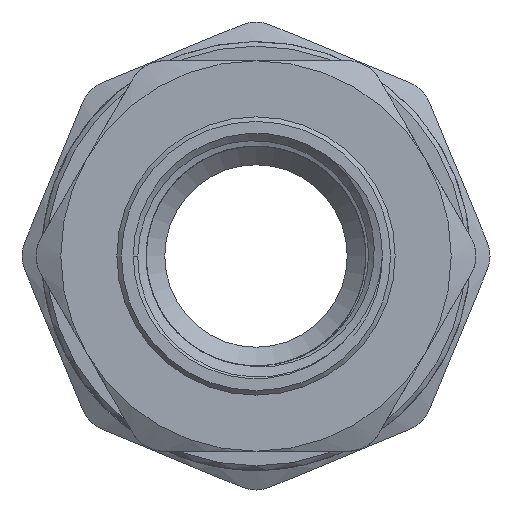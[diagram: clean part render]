
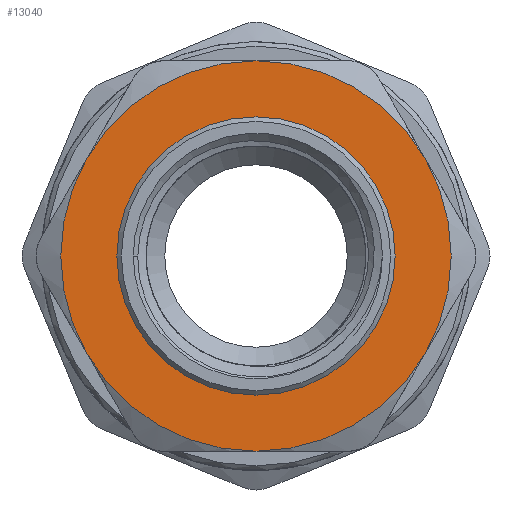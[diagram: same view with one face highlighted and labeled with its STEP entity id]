
A CAD part, left-side view. The second image highlights one B-rep face of the part: STEP entity #13040.
In plain terms, the highlighted planar face has unit normal (-1, 0, 0).
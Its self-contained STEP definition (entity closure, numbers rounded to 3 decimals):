
#241=PLANE('',#13520);
#758=CIRCLE('',#13478,21.4);
#759=CIRCLE('',#13480,21.4);
#760=CIRCLE('',#13482,21.4);
#761=CIRCLE('',#13484,21.4);
#762=CIRCLE('',#13486,21.4);
#780=CIRCLE('',#13519,21.4);
#781=CIRCLE('',#13521,15.25);
#782=CIRCLE('',#13522,15.25);
#1002=FACE_BOUND('',#2398,.T.);
#1649=FACE_OUTER_BOUND('',#2397,.T.);
#2397=EDGE_LOOP('',(#11867,#11868,#11869,#11870,#11871,#11872));
#2398=EDGE_LOOP('',(#11873,#11874));
#6080=VERTEX_POINT('',#31791);
#6088=VERTEX_POINT('',#31839);
#6102=VERTEX_POINT('',#31920);
#6105=VERTEX_POINT('',#31939);
#6113=VERTEX_POINT('',#31987);
#6120=VERTEX_POINT('',#32034);
#6136=VERTEX_POINT('',#32118);
#6137=VERTEX_POINT('',#32119);
#8052=EDGE_CURVE('',#6105,#6102,#758,.T.);
#8053=EDGE_CURVE('',#6102,#6088,#759,.T.);
#8054=EDGE_CURVE('',#6113,#6105,#760,.T.);
#8055=EDGE_CURVE('',#6088,#6080,#761,.T.);
#8056=EDGE_CURVE('',#6120,#6113,#762,.T.);
#8082=EDGE_CURVE('',#6080,#6120,#780,.T.);
#8083=EDGE_CURVE('',#6136,#6137,#781,.T.);
#8084=EDGE_CURVE('',#6137,#6136,#782,.T.);
#11867=ORIENTED_EDGE('',*,*,#8054,.T.);
#11868=ORIENTED_EDGE('',*,*,#8052,.T.);
#11869=ORIENTED_EDGE('',*,*,#8053,.T.);
#11870=ORIENTED_EDGE('',*,*,#8055,.T.);
#11871=ORIENTED_EDGE('',*,*,#8082,.T.);
#11872=ORIENTED_EDGE('',*,*,#8056,.T.);
#11873=ORIENTED_EDGE('',*,*,#8083,.F.);
#11874=ORIENTED_EDGE('',*,*,#8084,.F.);
#13040=ADVANCED_FACE('',(#1649,#1002),#241,.T.);
#13478=AXIS2_PLACEMENT_3D('',#32052,#15222,#15223);
#13480=AXIS2_PLACEMENT_3D('',#32054,#15226,#15227);
#13482=AXIS2_PLACEMENT_3D('',#32056,#15230,#15231);
#13484=AXIS2_PLACEMENT_3D('',#32058,#15234,#15235);
#13486=AXIS2_PLACEMENT_3D('',#32060,#15238,#15239);
#13519=AXIS2_PLACEMENT_3D('',#32116,#15312,#15313);
#13520=AXIS2_PLACEMENT_3D('',#32117,#15314,#15315);
#13521=AXIS2_PLACEMENT_3D('',#32120,#15316,#15317);
#13522=AXIS2_PLACEMENT_3D('',#32121,#15318,#15319);
#15222=DIRECTION('center_axis',(-1.,0.,0.));
#15223=DIRECTION('ref_axis',(0.,0.,1.));
#15226=DIRECTION('center_axis',(-1.,0.,0.));
#15227=DIRECTION('ref_axis',(0.,0.,1.));
#15230=DIRECTION('center_axis',(-1.,0.,0.));
#15231=DIRECTION('ref_axis',(0.,0.,1.));
#15234=DIRECTION('center_axis',(-1.,0.,0.));
#15235=DIRECTION('ref_axis',(0.,0.,1.));
#15238=DIRECTION('center_axis',(-1.,0.,0.));
#15239=DIRECTION('ref_axis',(0.,0.,1.));
#15312=DIRECTION('center_axis',(-1.,0.,0.));
#15313=DIRECTION('ref_axis',(0.,0.,1.));
#15314=DIRECTION('center_axis',(-1.,0.,0.));
#15315=DIRECTION('ref_axis',(0.,0.,1.));
#15316=DIRECTION('center_axis',(-1.,0.,0.));
#15317=DIRECTION('ref_axis',(0.,0.,1.));
#15318=DIRECTION('center_axis',(-1.,0.,0.));
#15319=DIRECTION('ref_axis',(0.,0.,1.));
#31791=CARTESIAN_POINT('',(-13.75,18.533,-10.7));
#31839=CARTESIAN_POINT('',(-13.75,18.533,10.7));
#31920=CARTESIAN_POINT('',(-13.75,0.,21.4));
#31939=CARTESIAN_POINT('',(-13.75,-18.533,10.7));
#31987=CARTESIAN_POINT('',(-13.75,-18.533,-10.7));
#32034=CARTESIAN_POINT('',(-13.75,0.,-21.4));
#32052=CARTESIAN_POINT('Origin',(-13.75,0.,
0.));
#32054=CARTESIAN_POINT('Origin',(-13.75,0.,
0.));
#32056=CARTESIAN_POINT('Origin',(-13.75,0.,
0.));
#32058=CARTESIAN_POINT('Origin',(-13.75,0.,
0.));
#32060=CARTESIAN_POINT('Origin',(-13.75,0.,
0.));
#32116=CARTESIAN_POINT('Origin',(-13.75,0.,
0.));
#32117=CARTESIAN_POINT('Origin',(-13.75,-15.25,0.));
#32118=CARTESIAN_POINT('',(-13.75,-15.25,0.));
#32119=CARTESIAN_POINT('',(-13.75,15.25,0.));
#32120=CARTESIAN_POINT('Origin',(-13.75,0.,0.));
#32121=CARTESIAN_POINT('Origin',(-13.75,0.,0.));
